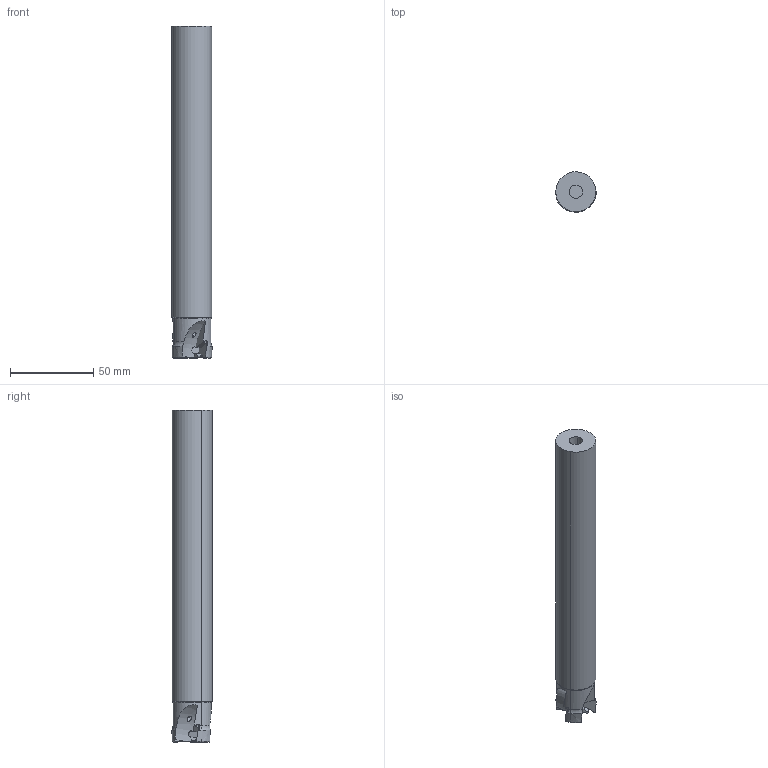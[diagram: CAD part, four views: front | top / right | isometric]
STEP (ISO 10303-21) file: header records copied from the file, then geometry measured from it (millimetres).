
FILE_DESCRIPTION(('CATIA V5 STEP','CAx-IF Rec.Pracs.--- Model Styling and Organization---1.2---2011-12-15'),'2;1');
FILE_NAME('N:\data\isr\design\special1\users\EVA_U\Requests\NPA\3107036_HM390 ETP D25-3-C24-10-B\3107036_HM390 ETP D25-3-C24-10-B.stp','2016-07-05T08:25:13+00:00',('none'),('none'),'CATIA Version 5 Release 21 SP 5 (IN-10)','CATIA V5 STEP AP214','none');
FILE_SCHEMA(('AUTOMOTIVE_DESIGN { 1 0 10303 214 1 1 1 1 }'));
Length unit declared in the file: millimetre
Products named in the file (1): HM390 ETP D25-3-C24-10-B
Bounding box: 24.23 x 24.22 x 199.4 mm (x, y, z)
Volume: 85498.7 mm3; surface area: 16486.6 mm2
Topology: 1 solids, 1 shells, 107 faces, 306 edges, 196 vertices
Faces by surface type: plane 42, torus 21, cylinder 21, sphere 12, cone 8, revolution 3
Entity records: 3813 total; most frequent: CARTESIAN_POINT 1424, ORIENTED_EDGE 594, DIRECTION 322, EDGE_CURVE 297, VERTEX_POINT 196, AXIS2_PLACEMENT_3D 152, B_SPLINE_CURVE_WITH_KNOTS 139, EDGE_LOOP 111
